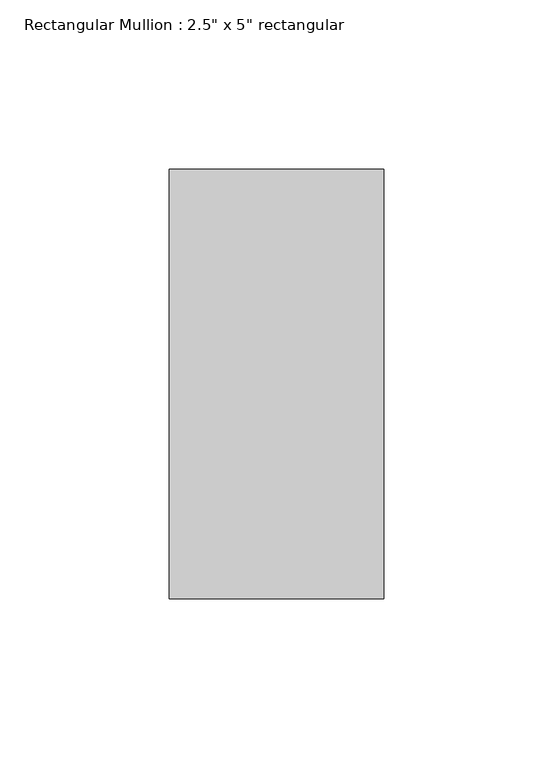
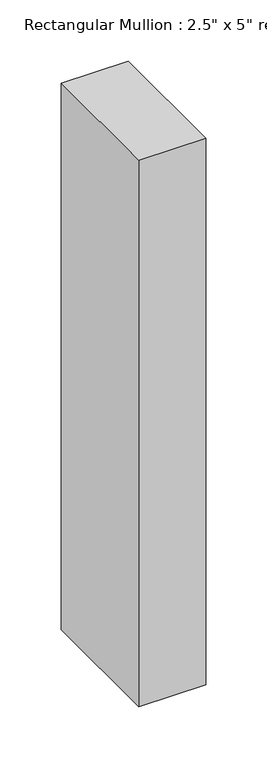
"""IFC4 building model written with IfcOpenShell, lengths in millimetres: member geometry."""

from ifc_helpers import new_model, si_unit, frame, origin, place, context, project, spatial, polyline, outline, extrude, source, transform, mapped, element, save


def member_0a1a1ade(model_context):
    return source(origin(), model_context, "Body", "SweptSolid", [
        extrude(outline(polyline([(31.75, 63.5), (31.75, -63.5), (-31.75, -63.5), (-31.75, 63.5), (31.75, 63.5)])), frame((0.0, 0.0, -546.1), z_axis=(0.0, 0.0, 1.0), x_axis=(1.0, 0.0, 0.0)), (0.0, 0.0, 1.0), 546.1),
    ])


if __name__ == "__main__":
    model = new_model("IFC4")
    model_context = context("Model", 3, world=origin())
    ifc_project = project(units=[si_unit("LENGTHUNIT", "METRE", prefix="MILLI")], contexts=[model_context])
    site = spatial("IfcSite", under=ifc_project)
    building = spatial("IfcBuilding", under=site)
    placement = place(None, origin())
    member_shape = member_0a1a1ade(model_context)
    element("IfcMember", 1, ObjectType="Rectangular Mullion : 2.5\" x 5\" rectangular", at=placement, inside=building, context=model_context, shape_type="MappedRepresentation", body=[
        mapped(member_shape, transform((0.0, 0.0, 0.0), x_axis=(1.0, 0.0, 0.0), y_axis=(0.0, 1.0, 0.0), z_axis=(0.0, 0.0, 1.0))),
    ])
    save(model, "model.ifc")
